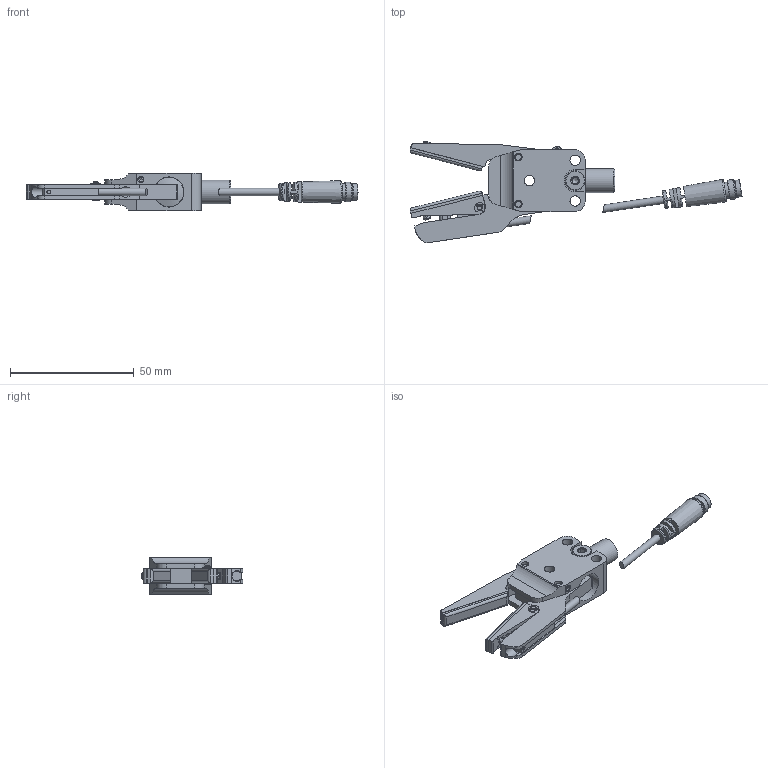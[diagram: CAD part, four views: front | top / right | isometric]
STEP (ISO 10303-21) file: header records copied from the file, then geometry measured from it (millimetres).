
FILE_DESCRIPTION(('STEP AP214'),'1');
FILE_NAME('CA.GZA.10.12.220.stp','2023-05-29T09:00:04',(' '),(' '),'Spatial InterOp 3D',' ',' ');
FILE_SCHEMA(('AUTOMOTIVE_DESIGN { 1 0 10303 214 1 1 1 1 }'));
Length unit declared in the file: millimetre
Products named in the file (20): CA.GZA.10.12 CON KT58PM8 + GOMMINO; GZA.10.08.9; GZA.10.12.6.V; GZA.10.12.306; A.ELA.RA1.5; SP.2x7.5SS; KT58PM8; DIM.D10620; GZA.10.12.303; CA.GZA.10.12.220; GZA.10.12.3.G; PSP.1269255; GZA.10.12.2; GZA.10.12.1.18; CA.08.14.013; GZA.10.12.5; V.STM3X5; M.6x25.SH
Assembly tree (24 placements, depth 4):
  CA.GZA.10.12.220
    CA.GZA.10.12 CON KT58PM8 + GOMMINO
      CA.GZA.10.12 CON KT58PM8 + GOMMINO
        GZA.10.08.9
        GZA.10.12.6.V
        GZA.10.12.306
      CA.GZA.10.12 CON KT58PM8 + GOMMINO
        A.ELA.RA1.5
        SP.2x7.5SS
        KT58PM8
        DIM.D10620
        GZA.10.12.303
    GZA.10.12.6.V
    GZA.10.12.3.G
    PSP.1269255  x2
    GZA.10.12.2  x2
    GZA.10.12.1.18
    CA.08.14.013
    GZA.10.12.5  x2
    V.STM3X5  x2
    M.6x25.SH
Bounding box: 134.33 x 41.09 x 15 mm (x, y, z)
Volume: 17155.2 mm3; surface area: 17324 mm2
Topology: 22 solids, 22 shells, 561 faces, 1445 edges, 944 vertices
Faces by surface type: plane 270, cylinder 215, cone 44, torus 22, sphere 5, bspline 5
Full cylindrical faces by diameter (mm): 1 x3, 1.5 x2, 2 x3, 2.02 x1, 2.05 x4, 2.1 x2, 2.5 x4, 2.6 x3, 3 x11, 3.05 x6, 3.1 x3, 3.8 x1, 4.2 x7, 5 x4, 5.8 x1, 6.3 x1, 6.45 x1, 6.6 x1, 6.9 x3, 7 x2, 7.93 x1, 8 x1, 9.7 x1, 11.9 x2, 11.95 x4, 12.2 x1
Entity records: 21963 total; most frequent: CARTESIAN_POINT 6186, DIRECTION 2263, ORIENTED_EDGE 2044, EDGE_CURVE 1022, AXIS2_PLACEMENT_3D 876, VERTEX_POINT 737, EDGE_LOOP 657, FACE_OUTER_BOUND 544
